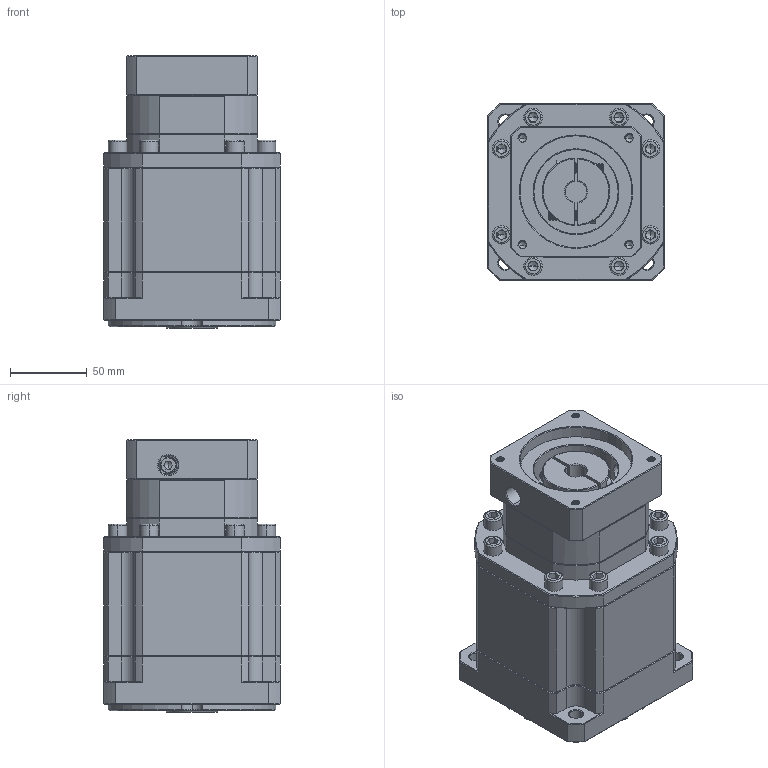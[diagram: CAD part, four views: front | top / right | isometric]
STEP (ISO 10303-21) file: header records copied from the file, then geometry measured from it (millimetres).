
FILE_DESCRIPTION (( 'STEP AP214' ), '1' );
FILE_NAME ('ZB115A-K25-L3-14-73-69.6X69.6-M6.step', '2023-03-03T09:59:07', ( '' ), ( 'Microsoft' ), 'SwSTEP 2.0', 'SolidWorks 2016', '' );
FILE_SCHEMA (( 'AUTOMOTIVE_DESIGN' ));
Length unit declared in the file: millimetre
Products named in the file (1): ZB115A-K25-L3-14-73-69.6X69.6-M6
Bounding box: 115 x 115 x 177.5 mm (x, y, z)
Volume: 1642453.1 mm3; surface area: 143298.7 mm2
Topology: 5 solids, 6 shells, 2081 faces, 5372 edges, 3388 vertices
Faces by surface type: plane 1003, cylinder 393, cone 350, bspline 320, torus 15
Entity records: 107071 total; most frequent: CARTESIAN_POINT 36190, ORIENTED_EDGE 10672, DIRECTION 8802, EDGE_CURVE 5336, VERTEX_POINT 3388, VECTOR 3366, LINE 3366, AXIS2_PLACEMENT_3D 2718
